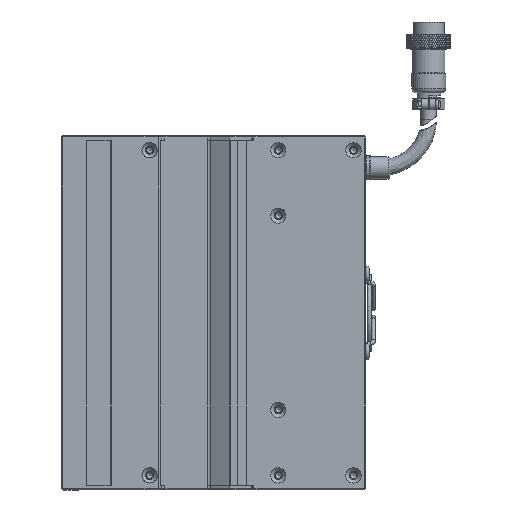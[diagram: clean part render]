
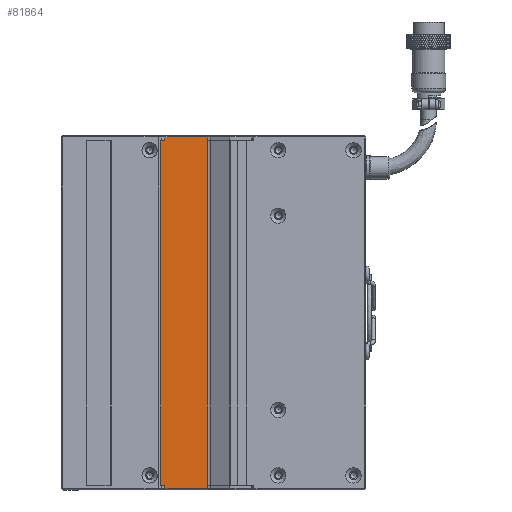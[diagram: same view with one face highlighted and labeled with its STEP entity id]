
A CAD part, left-side view. The second image highlights one B-rep face of the part: STEP entity #81864.
In plain terms, the highlighted planar face has unit normal (-1, 0, 0).
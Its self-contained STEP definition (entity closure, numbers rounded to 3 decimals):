
#345 = DIRECTION ( 'NONE',  ( 0., 0., -1. ) ) ;
#730 = VECTOR ( 'NONE', #32658, 1000. ) ;
#1076 = VECTOR ( 'NONE', #127744, 1000. ) ;
#4913 = CARTESIAN_POINT ( 'NONE',  ( -15., -7.464, 71. ) ) ;
#5343 = ORIENTED_EDGE ( 'NONE', *, *, #66892, .T. ) ;
#6107 = DIRECTION ( 'NONE',  ( 0., 0., 1. ) ) ;
#7103 = LINE ( 'NONE', #43357, #111799 ) ;
#7788 = CARTESIAN_POINT ( 'NONE',  ( -15., 10.182, -72.5 ) ) ;
#11377 = CARTESIAN_POINT ( 'NONE',  ( -15., 10.182, 71. ) ) ;
#12142 = LINE ( 'NONE', #117104, #1076 ) ;
#12367 = PLANE ( 'NONE',  #87531 ) ;
#12817 = CARTESIAN_POINT ( 'NONE',  ( -15., 12.005, 71. ) ) ;
#17049 = CARTESIAN_POINT ( 'NONE',  ( -15., -7.441, -71. ) ) ;
#17099 = VERTEX_POINT ( 'NONE', #127033 ) ;
#17857 = FACE_OUTER_BOUND ( 'NONE', #82006, .T. ) ;
#18076 = VERTEX_POINT ( 'NONE', #35630 ) ;
#19950 = LINE ( 'NONE', #69133, #97687 ) ;
#21610 = LINE ( 'NONE', #26077, #96187 ) ;
#22405 = DIRECTION ( 'NONE',  ( 0., 0., 1. ) ) ;
#22589 = CARTESIAN_POINT ( 'NONE',  ( -15., -8., 71. ) ) ;
#25137 = CARTESIAN_POINT ( 'NONE',  ( -15., -7.441, 71. ) ) ;
#26077 = CARTESIAN_POINT ( 'NONE',  ( -15., 10.182, 71. ) ) ;
#28524 = CARTESIAN_POINT ( 'NONE',  ( -15., -7.441, -71. ) ) ;
#28633 = CARTESIAN_POINT ( 'NONE',  ( -15., 10.182, 71. ) ) ;
#30251 = VERTEX_POINT ( 'NONE', #37765 ) ;
#30594 = CARTESIAN_POINT ( 'NONE',  ( -15., -7.441, 72.5 ) ) ;
#32519 = VERTEX_POINT ( 'NONE', #28524 ) ;
#32658 = DIRECTION ( 'NONE',  ( 0., 0., 1. ) ) ;
#32799 = DIRECTION ( 'NONE',  ( 0., 0., -1. ) ) ;
#35630 = CARTESIAN_POINT ( 'NONE',  ( -15., -7.464, -71. ) ) ;
#36987 = LINE ( 'NONE', #102174, #73540 ) ;
#37401 = CARTESIAN_POINT ( 'NONE',  ( -15., -7.449, -71. ) ) ;
#37765 = CARTESIAN_POINT ( 'NONE',  ( -15., -7.441, -72.5 ) ) ;
#37941 = CARTESIAN_POINT ( 'NONE',  ( -15., 10.182, 72.5 ) ) ;
#38364 = ORIENTED_EDGE ( 'NONE', *, *, #110344, .F. ) ;
#38569 = ORIENTED_EDGE ( 'NONE', *, *, #103403, .F. ) ;
#39454 = LINE ( 'NONE', #54361, #42665 ) ;
#42056 = ORIENTED_EDGE ( 'NONE', *, *, #125994, .T. ) ;
#42665 = VECTOR ( 'NONE', #94682, 1000. ) ;
#43357 = CARTESIAN_POINT ( 'NONE',  ( -15., -7.441, 64. ) ) ;
#45128 = DIRECTION ( 'NONE',  ( 0., 0., 1. ) ) ;
#47658 = CARTESIAN_POINT ( 'NONE',  ( -15., -7.464, -71. ) ) ;
#48183 = ORIENTED_EDGE ( 'NONE', *, *, #106710, .T. ) ;
#49519 = VERTEX_POINT ( 'NONE', #82765 ) ;
#50559 = VERTEX_POINT ( 'NONE', #87297 ) ;
#51668 = ORIENTED_EDGE ( 'NONE', *, *, #105982, .T. ) ;
#54361 = CARTESIAN_POINT ( 'NONE',  ( -15., -8., -71. ) ) ;
#54664 = EDGE_CURVE ( 'NONE', #69506, #84904, #89414, .T. ) ;
#55426 = VERTEX_POINT ( 'NONE', #30594 ) ;
#62221 = ORIENTED_EDGE ( 'NONE', *, *, #74094, .T. ) ;
#64374 = VECTOR ( 'NONE', #115796, 1000. ) ;
#65417 = DIRECTION ( 'NONE',  ( 0., -1., 0. ) ) ;
#66892 = EDGE_CURVE ( 'NONE', #55426, #80438, #73488, .T. ) ;
#69133 = CARTESIAN_POINT ( 'NONE',  ( -15., -7.441, 71. ) ) ;
#69506 = VERTEX_POINT ( 'NONE', #12817 ) ;
#70311 = VECTOR ( 'NONE', #65417, 1000. ) ;
#70702 = ORIENTED_EDGE ( 'NONE', *, *, #54664, .F. ) ;
#71438 = EDGE_CURVE ( 'NONE', #50559, #88489, #39454, .T. ) ;
#73488 = LINE ( 'NONE', #114519, #98923 ) ;
#73540 = VECTOR ( 'NONE', #22405, 1000. ) ;
#73938 = ORIENTED_EDGE ( 'NONE', *, *, #121820, .F. ) ;
#74094 = EDGE_CURVE ( 'NONE', #17099, #49519, #76125, .T. ) ;
#75019 = DIRECTION ( 'NONE',  ( 0., 1., 0. ) ) ;
#75431 = LINE ( 'NONE', #11377, #730 ) ;
#76125 = B_SPLINE_CURVE_WITH_KNOTS ( 'NONE', 3,
 ( #100937, #116029, #76499, #25137 ),
 .UNSPECIFIED., .F., .F.,
 ( 4, 4 ),
 ( 0., 1. ),
 .UNSPECIFIED. ) ;
#76499 = CARTESIAN_POINT ( 'NONE',  ( -15., -7.449, 71. ) ) ;
#77798 = CARTESIAN_POINT ( 'NONE',  ( -15., -7.456, -71. ) ) ;
#80438 = VERTEX_POINT ( 'NONE', #37941 ) ;
#81864 = ADVANCED_FACE ( 'NONE', ( #17857 ), #12367, .F. ) ;
#82006 = EDGE_LOOP ( 'NONE', ( #124451, #38569, #42056, #120044, #73938, #48183, #62221, #51668, #5343, #93132, #70702, #38364 ) ) ;
#82765 = CARTESIAN_POINT ( 'NONE',  ( -15., -7.441, 71. ) ) ;
#84904 = VERTEX_POINT ( 'NONE', #28633 ) ;
#84993 = VERTEX_POINT ( 'NONE', #7788 ) ;
#85566 = B_SPLINE_CURVE_WITH_KNOTS ( 'NONE', 3,
 ( #47658, #77798, #37401, #17049 ),
 .UNSPECIFIED., .F., .F.,
 ( 4, 4 ),
 ( 0., 1. ),
 .UNSPECIFIED. ) ;
#87297 = CARTESIAN_POINT ( 'NONE',  ( -15., 10.182, -71. ) ) ;
#87531 = AXIS2_PLACEMENT_3D ( 'NONE', #22589, #93526, #32799 ) ;
#88489 = VERTEX_POINT ( 'NONE', #91181 ) ;
#89414 = LINE ( 'NONE', #126238, #70311 ) ;
#91181 = CARTESIAN_POINT ( 'NONE',  ( -15., 12.005, -71. ) ) ;
#93132 = ORIENTED_EDGE ( 'NONE', *, *, #121454, .F. ) ;
#93526 = DIRECTION ( 'NONE',  ( 1., 0., 0. ) ) ;
#94682 = DIRECTION ( 'NONE',  ( 0., 1., 0. ) ) ;
#96187 = VECTOR ( 'NONE', #6107, 1000. ) ;
#97687 = VECTOR ( 'NONE', #345, 1000. ) ;
#98923 = VECTOR ( 'NONE', #75019, 1000. ) ;
#100937 = CARTESIAN_POINT ( 'NONE',  ( -15., -7.464, 71. ) ) ;
#102174 = CARTESIAN_POINT ( 'NONE',  ( -15., 12.005, 71. ) ) ;
#103403 = EDGE_CURVE ( 'NONE', #84993, #50559, #21610, .T. ) ;
#104388 = EDGE_CURVE ( 'NONE', #32519, #30251, #19950, .T. ) ;
#105982 = EDGE_CURVE ( 'NONE', #49519, #55426, #7103, .T. ) ;
#106710 = EDGE_CURVE ( 'NONE', #18076, #17099, #126138, .T. ) ;
#110344 = EDGE_CURVE ( 'NONE', #88489, #69506, #36987, .T. ) ;
#111799 = VECTOR ( 'NONE', #45128, 1000. ) ;
#114519 = CARTESIAN_POINT ( 'NONE',  ( -15., -7.958, 72.5 ) ) ;
#115796 = DIRECTION ( 'NONE',  ( 0., 0., 1. ) ) ;
#116029 = CARTESIAN_POINT ( 'NONE',  ( -15., -7.456, 71. ) ) ;
#117104 = CARTESIAN_POINT ( 'NONE',  ( -15., -7.958, -72.5 ) ) ;
#120044 = ORIENTED_EDGE ( 'NONE', *, *, #104388, .F. ) ;
#121454 = EDGE_CURVE ( 'NONE', #84904, #80438, #75431, .T. ) ;
#121820 = EDGE_CURVE ( 'NONE', #18076, #32519, #85566, .T. ) ;
#124451 = ORIENTED_EDGE ( 'NONE', *, *, #71438, .F. ) ;
#125994 = EDGE_CURVE ( 'NONE', #84993, #30251, #12142, .T. ) ;
#126138 = LINE ( 'NONE', #4913, #64374 ) ;
#126238 = CARTESIAN_POINT ( 'NONE',  ( -15., -8., 71. ) ) ;
#127033 = CARTESIAN_POINT ( 'NONE',  ( -15., -7.464, 71. ) ) ;
#127744 = DIRECTION ( 'NONE',  ( 0., -1., 0. ) ) ;
